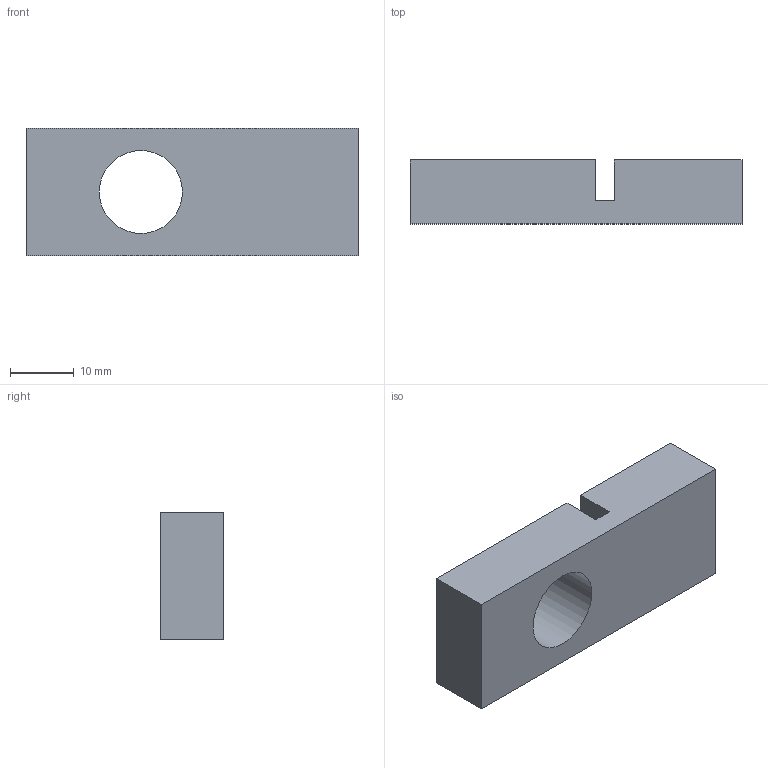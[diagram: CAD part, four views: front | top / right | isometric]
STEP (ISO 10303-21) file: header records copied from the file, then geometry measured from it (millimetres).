
FILE_DESCRIPTION((''),'2;1');
FILE_NAME('C:\Documents and Settings\akey00\デスクトップ\NIC2Ｄ_3D_CAD\3_06完\【提出用】ホルダープレート\3D_EZPS-06\Imported Components\3D_EZPS-06\3D_EZPS-06.stp','2013-03-06T19:09:40',(''),('NIC Autotec, Inc.'),'Autodesk Inventor 2013','Autodesk Inventor 2013','');
FILE_SCHEMA(('CONFIG_CONTROL_DESIGN'));
Length unit declared in the file: millimetre
Products named in the file (1): 3D_EZPS-06
Bounding box: 52 x 10 x 20 mm (x, y, z)
Volume: 8688.7 mm3; surface area: 3880.5 mm2
Topology: 1 solids, 1 shells, 11 faces, 27 edges, 18 vertices
Faces by surface type: plane 10, cylinder 1
Full cylindrical faces by diameter (mm): 13 x1
Entity records: 366 total; most frequent: CARTESIAN_POINT 56, DIRECTION 52, ORIENTED_EDGE 52, EDGE_CURVE 26, VECTOR 24, LINE 24, VERTEX_POINT 18, AXIS2_PLACEMENT_3D 14
